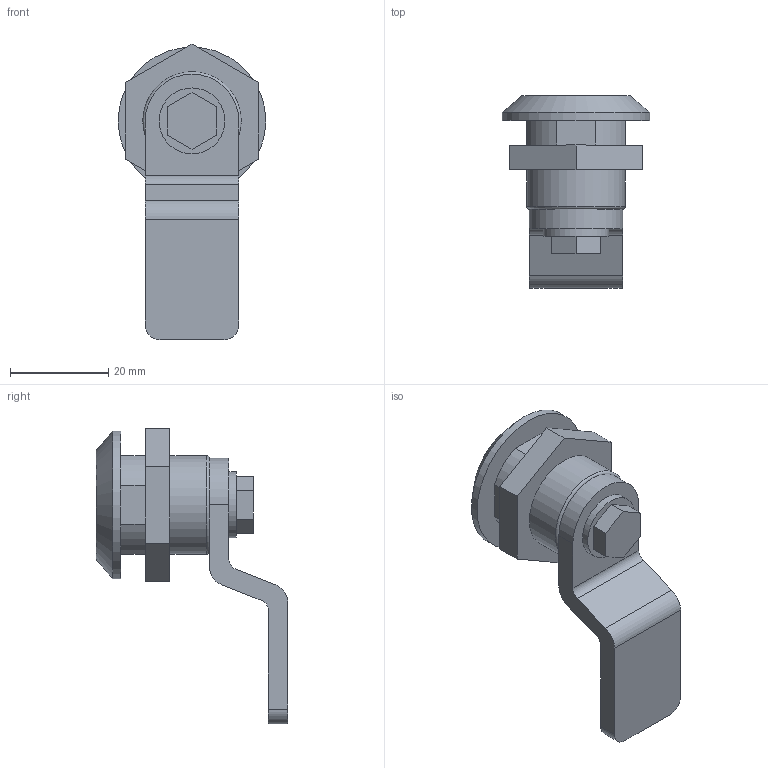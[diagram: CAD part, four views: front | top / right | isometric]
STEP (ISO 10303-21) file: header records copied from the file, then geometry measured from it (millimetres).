
FILE_DESCRIPTION (( 'STEP AP214' ), '1' );
FILE_NAME ('F30230.step', '2024-12-03T16:16:31', ( '' ), ( '' ), 'SwSTEP 2.0', 'SolidWorks 2023', '' );
FILE_SCHEMA (( 'AUTOMOTIVE_DESIGN' ));
Length unit declared in the file: millimetre
Products named in the file (1): F30230
Bounding box: 30 x 39 x 60.09 mm (x, y, z)
Volume: 14813.9 mm3; surface area: 6244 mm2
Topology: 1 solids, 1 shells, 69 faces, 176 edges, 116 vertices
Faces by surface type: plane 49, cylinder 18, cone 1, torus 1
Full cylindrical faces by diameter (mm): 13.4 x1, 20 x1, 30 x1
Entity records: 2065 total; most frequent: CARTESIAN_POINT 355, DIRECTION 348, ORIENTED_EDGE 340, EDGE_CURVE 170, LINE 132, VECTOR 132, VERTEX_POINT 115, AXIS2_PLACEMENT_3D 108
